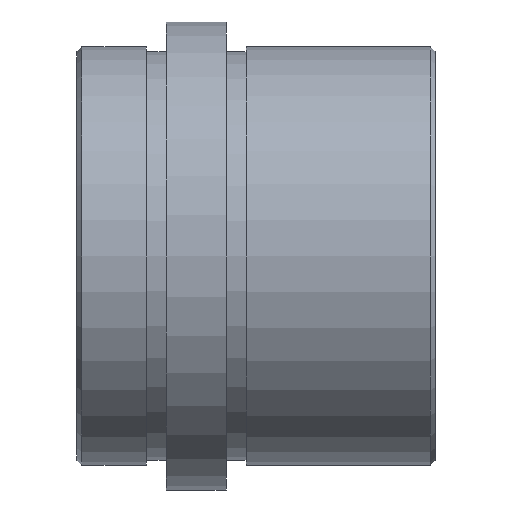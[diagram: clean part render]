
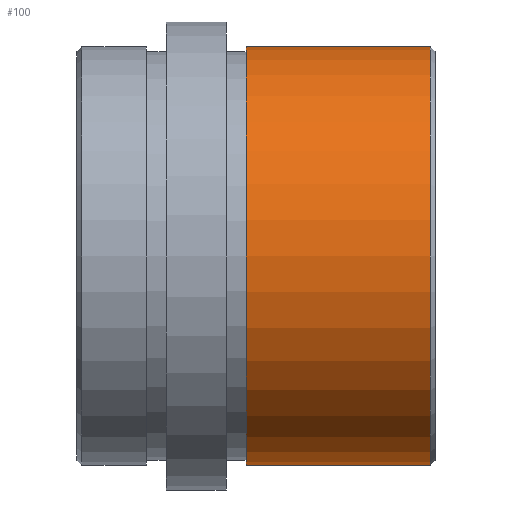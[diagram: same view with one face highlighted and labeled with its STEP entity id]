
A CAD part, front view. The second image highlights one B-rep face of the part: STEP entity #100.
In plain terms, the highlighted face is a revolution surface.
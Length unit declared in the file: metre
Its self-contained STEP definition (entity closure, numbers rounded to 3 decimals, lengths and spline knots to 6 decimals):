
#100 = ADVANCED_FACE( '', ( #157 ), #158, .F. );
#157 = FACE_OUTER_BOUND( '', #250, .T. );
#158 = SURFACE_OF_REVOLUTION( '', #251, #252 );
#250 = EDGE_LOOP( '', ( #419, #420, #421, #422 ) );
#251 = B_SPLINE_CURVE_WITH_KNOTS( '', 1, ( #423, #424 ), .UNSPECIFIED., .F., .F., ( 2, 2 ), ( -10000., 10000. ), .UNSPECIFIED. );
#252 = AXIS1_PLACEMENT( '', #425, #426 );
#419 = ORIENTED_EDGE( '', *, *, #492, .T. );
#420 = ORIENTED_EDGE( '', *, *, #490, .T. );
#421 = ORIENTED_EDGE( '', *, *, #445, .F. );
#422 = ORIENTED_EDGE( '', *, *, #489, .T. );
#423 = CARTESIAN_POINT( '', ( 10000.0355, 0., 0.021 ) );
#424 = CARTESIAN_POINT( '', ( -9999.9645, 0., 0.021 ) );
#425 = CARTESIAN_POINT( '', ( 0., 0., 0. ) );
#426 = DIRECTION( '', ( 1., 0., 0. ) );
#445 = EDGE_CURVE( '', #499, #500, #501, .T. );
#489 = EDGE_CURVE( '', #499, #571, #572, .F. );
#490 = EDGE_CURVE( '', #573, #500, #574, .T. );
#492 = EDGE_CURVE( '', #571, #573, #576, .T. );
#499 = VERTEX_POINT( '', #583 );
#500 = VERTEX_POINT( '', #584 );
#501 = CIRCLE( '', #585, 0.021 );
#571 = VERTEX_POINT( '', #671 );
#572 = LINE( '', #672, #673 );
#573 = VERTEX_POINT( '', #674 );
#574 = LINE( '', #675, #676 );
#576 = CIRCLE( '', #678, 0.021 );
#583 = CARTESIAN_POINT( '', ( 0.017, 0., -0.021 ) );
#584 = CARTESIAN_POINT( '', ( 0.017, 0., 0.021 ) );
#585 = AXIS2_PLACEMENT_3D( '', #689, #690, #691 );
#671 = CARTESIAN_POINT( '', ( 0.0355, 0., -0.021 ) );
#672 = CARTESIAN_POINT( '', ( 0.0355, 0., -0.021 ) );
#673 = VECTOR( '', #789, 1. );
#674 = CARTESIAN_POINT( '', ( 0.0355, 0., 0.021 ) );
#675 = CARTESIAN_POINT( '', ( 0.0355, 0., 0.021 ) );
#676 = VECTOR( '', #790, 1. );
#678 = AXIS2_PLACEMENT_3D( '', #794, #795, #796 );
#689 = CARTESIAN_POINT( '', ( 0.017, 0., 0. ) );
#690 = DIRECTION( '', ( -1., 0., 0. ) );
#691 = DIRECTION( '', ( 0., 0., 1. ) );
#789 = DIRECTION( '', ( -1., 0., 0. ) );
#790 = DIRECTION( '', ( -1., 0., 0. ) );
#794 = CARTESIAN_POINT( '', ( 0.0355, 0., 0. ) );
#795 = DIRECTION( '', ( -1., 0., 0. ) );
#796 = DIRECTION( '', ( 0., 0., 1. ) );
